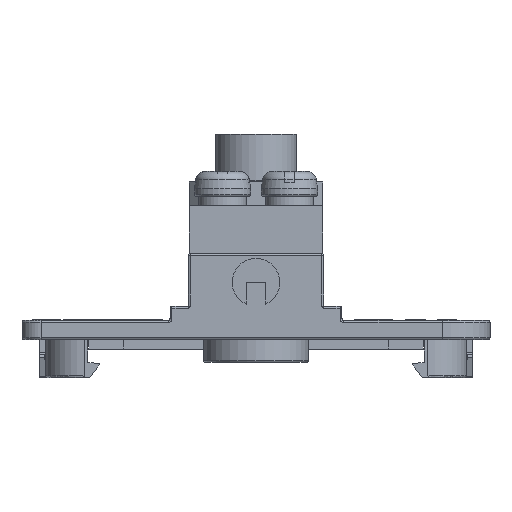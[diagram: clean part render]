
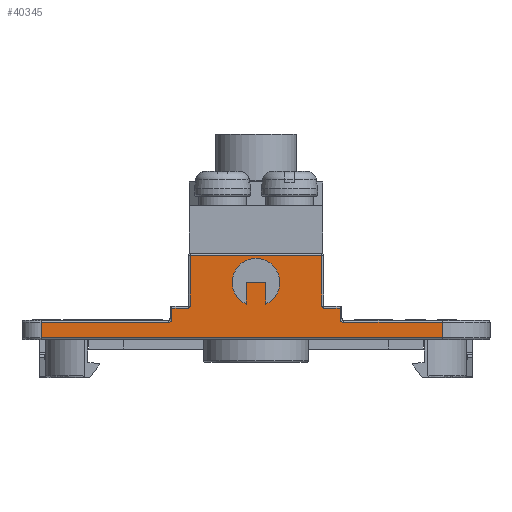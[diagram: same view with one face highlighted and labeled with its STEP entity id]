
A CAD part, left-side view. The second image highlights one B-rep face of the part: STEP entity #40345.
In plain terms, the highlighted planar face has unit normal (-1, 0, 0).
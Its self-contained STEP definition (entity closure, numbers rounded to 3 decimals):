
#1775=LINE('',#55544,#4717);
#1777=LINE('',#55548,#4719);
#1779=LINE('',#55552,#4721);
#1998=LINE('',#56090,#4940);
#2097=LINE('',#56355,#5039);
#2098=LINE('',#56360,#5040);
#2099=LINE('',#56362,#5041);
#2100=LINE('',#56364,#5042);
#2101=LINE('',#56365,#5043);
#2102=LINE('',#56369,#5044);
#2103=LINE('',#56371,#5045);
#2104=LINE('',#56375,#5046);
#2105=LINE('',#56377,#5047);
#2106=LINE('',#56379,#5048);
#2107=LINE('',#56383,#5049);
#4717=VECTOR('',#45290,1000.);
#4719=VECTOR('',#45294,1000.);
#4721=VECTOR('',#45298,1000.);
#4940=VECTOR('',#45709,1000.);
#5039=VECTOR('',#45970,1000.);
#5040=VECTOR('',#45973,1000.);
#5041=VECTOR('',#45974,1000.);
#5042=VECTOR('',#45975,1000.);
#5043=VECTOR('',#45976,1000.);
#5044=VECTOR('',#45979,1000.);
#5045=VECTOR('',#45980,1000.);
#5046=VECTOR('',#45983,1000.);
#5047=VECTOR('',#45984,1000.);
#5048=VECTOR('',#45985,1000.);
#5049=VECTOR('',#45988,1000.);
#8514=ORIENTED_EDGE('',*,*,#16613,.T.);
#8515=ORIENTED_EDGE('',*,*,#16614,.T.);
#8516=ORIENTED_EDGE('',*,*,#16615,.T.);
#8517=ORIENTED_EDGE('',*,*,#16616,.T.);
#8518=ORIENTED_EDGE('',*,*,#16617,.T.);
#8519=ORIENTED_EDGE('',*,*,#16475,.T.);
#8520=ORIENTED_EDGE('',*,*,#16618,.T.);
#8521=ORIENTED_EDGE('',*,*,#16619,.T.);
#8522=ORIENTED_EDGE('',*,*,#16620,.T.);
#8523=ORIENTED_EDGE('',*,*,#16621,.T.);
#8524=ORIENTED_EDGE('',*,*,#16622,.F.);
#8525=ORIENTED_EDGE('',*,*,#16623,.T.);
#8526=ORIENTED_EDGE('',*,*,#16624,.T.);
#8527=ORIENTED_EDGE('',*,*,#16625,.T.);
#8528=ORIENTED_EDGE('',*,*,#16626,.F.);
#8529=ORIENTED_EDGE('',*,*,#16627,.T.);
#8530=ORIENTED_EDGE('',*,*,#16222,.T.);
#8531=ORIENTED_EDGE('',*,*,#16220,.F.);
#8532=ORIENTED_EDGE('',*,*,#16218,.T.);
#8533=ORIENTED_EDGE('',*,*,#16215,.T.);
#16215=EDGE_CURVE('',#20340,#20341,#22370,.T.);
#16218=EDGE_CURVE('',#20342,#20340,#1775,.T.);
#16220=EDGE_CURVE('',#20342,#20343,#1777,.T.);
#16222=EDGE_CURVE('',#20341,#20343,#1779,.T.);
#16475=EDGE_CURVE('',#20567,#20568,#1998,.F.);
#16613=EDGE_CURVE('',#20652,#20653,#2097,.F.);
#16614=EDGE_CURVE('',#20653,#20654,#22444,.F.);
#16615=EDGE_CURVE('',#20654,#20655,#2098,.F.);
#16616=EDGE_CURVE('',#20655,#20656,#2099,.T.);
#16617=EDGE_CURVE('',#20656,#20567,#2100,.F.);
#16618=EDGE_CURVE('',#20568,#20657,#2101,.F.);
#16619=EDGE_CURVE('',#20657,#20658,#22445,.F.);
#16620=EDGE_CURVE('',#20658,#20659,#2102,.F.);
#16621=EDGE_CURVE('',#20659,#20660,#2103,.F.);
#16622=EDGE_CURVE('',#20661,#20660,#22446,.T.);
#16623=EDGE_CURVE('',#20661,#20662,#2104,.F.);
#16624=EDGE_CURVE('',#20662,#20663,#2105,.F.);
#16625=EDGE_CURVE('',#20663,#20664,#2106,.F.);
#16626=EDGE_CURVE('',#20665,#20664,#22447,.T.);
#16627=EDGE_CURVE('',#20665,#20652,#2107,.F.);
#20340=VERTEX_POINT('',#55539);
#20341=VERTEX_POINT('',#55540);
#20342=VERTEX_POINT('',#55545);
#20343=VERTEX_POINT('',#55549);
#20567=VERTEX_POINT('',#56091);
#20568=VERTEX_POINT('',#56092);
#20652=VERTEX_POINT('',#56356);
#20653=VERTEX_POINT('',#56357);
#20654=VERTEX_POINT('',#56359);
#20655=VERTEX_POINT('',#56361);
#20656=VERTEX_POINT('',#56363);
#20657=VERTEX_POINT('',#56366);
#20658=VERTEX_POINT('',#56368);
#20659=VERTEX_POINT('',#56370);
#20660=VERTEX_POINT('',#56372);
#20661=VERTEX_POINT('',#56374);
#20662=VERTEX_POINT('',#56376);
#20663=VERTEX_POINT('',#56378);
#20664=VERTEX_POINT('',#56380);
#20665=VERTEX_POINT('',#56382);
#22370=CIRCLE('',#42081,2.5);
#22444=CIRCLE('',#42262,0.4);
#22445=CIRCLE('',#42263,0.4);
#22446=CIRCLE('',#42264,0.2);
#22447=CIRCLE('',#42265,0.2);
#23289=EDGE_LOOP('',(#8514,#8515,#8516,#8517,#8518,#8519,#8520,#8521,#8522,
#8523,#8524,#8525,#8526,#8527,#8528,#8529));
#23290=EDGE_LOOP('',(#8530,#8531,#8532,#8533));
#25351=FACE_BOUND('',#23289,.T.);
#25352=FACE_BOUND('',#23290,.T.);
#27270=PLANE('',#42261);
#40345=ADVANCED_FACE('',(#25351,#25352),#27270,.T.);
#42081=AXIS2_PLACEMENT_3D('',#55538,#45284,#45285);
#42261=AXIS2_PLACEMENT_3D('',#56354,#45968,#45969);
#42262=AXIS2_PLACEMENT_3D('',#56358,#45971,#45972);
#42263=AXIS2_PLACEMENT_3D('',#56367,#45977,#45978);
#42264=AXIS2_PLACEMENT_3D('',#56373,#45981,#45982);
#42265=AXIS2_PLACEMENT_3D('',#56381,#45986,#45987);
#45284=DIRECTION('',(1.,0.,0.));
#45285=DIRECTION('',(0.,0.,-1.));
#45290=DIRECTION('',(0.,0.,-1.));
#45294=DIRECTION('',(0.,-1.,0.));
#45298=DIRECTION('',(0.,0.,1.));
#45709=DIRECTION('',(0.,0.,-1.));
#45968=DIRECTION('',(-1.,0.,0.));
#45969=DIRECTION('',(0.,-1.,0.));
#45970=DIRECTION('',(0.,0.,1.));
#45971=DIRECTION('',(-1.,0.,0.));
#45972=DIRECTION('',(0.,-1.,0.));
#45973=DIRECTION('',(0.,-1.,0.));
#45974=DIRECTION('',(0.,0.,-1.));
#45975=DIRECTION('',(0.,1.,0.));
#45976=DIRECTION('',(0.,-1.,0.));
#45977=DIRECTION('',(-1.,0.,0.));
#45978=DIRECTION('',(0.,-1.,0.));
#45979=DIRECTION('',(0.,0.,-1.));
#45980=DIRECTION('',(0.,-1.,0.));
#45981=DIRECTION('',(-1.,0.,0.));
#45982=DIRECTION('',(0.,-1.,0.));
#45983=DIRECTION('',(0.,0.,-1.));
#45984=DIRECTION('',(0.,-1.,0.));
#45985=DIRECTION('',(0.,0.,1.));
#45986=DIRECTION('',(-1.,0.,0.));
#45987=DIRECTION('',(0.,-1.,0.));
#45988=DIRECTION('',(0.,-1.,0.));
#55538=CARTESIAN_POINT('',(-57.,0.,6.));
#55539=CARTESIAN_POINT('',(-57.,1.,3.709));
#55540=CARTESIAN_POINT('',(-57.,-1.,3.709));
#55544=CARTESIAN_POINT('',(-57.,1.,4.));
#55545=CARTESIAN_POINT('',(-57.,1.,6.));
#55548=CARTESIAN_POINT('',(-57.,1.,6.));
#55549=CARTESIAN_POINT('',(-57.,-1.,6.));
#55552=CARTESIAN_POINT('',(-57.,-1.,4.));
#56090=CARTESIAN_POINT('',(-57.,-19.5,0.));
#56091=CARTESIAN_POINT('',(-57.,-19.5,0.2));
#56092=CARTESIAN_POINT('',(-57.,-19.5,1.8));
#56354=CARTESIAN_POINT('',(-57.,0.,0.));
#56355=CARTESIAN_POINT('',(-57.,8.8,0.));
#56356=CARTESIAN_POINT('',(-57.,8.8,3.3));
#56357=CARTESIAN_POINT('',(-57.,8.8,2.2));
#56358=CARTESIAN_POINT('',(-57.,9.2,2.2));
#56359=CARTESIAN_POINT('',(-57.,9.2,1.8));
#56360=CARTESIAN_POINT('',(-57.,22.5,1.8));
#56361=CARTESIAN_POINT('',(-57.,22.5,1.8));
#56362=CARTESIAN_POINT('',(-57.,22.5,0.));
#56363=CARTESIAN_POINT('',(-57.,22.5,0.2));
#56364=CARTESIAN_POINT('',(-57.,0.,0.2));
#56365=CARTESIAN_POINT('',(-57.,-9.,1.8));
#56366=CARTESIAN_POINT('',(-57.,-9.2,1.8));
#56367=CARTESIAN_POINT('',(-57.,-9.2,2.2));
#56368=CARTESIAN_POINT('',(-57.,-8.8,2.2));
#56369=CARTESIAN_POINT('',(-57.,-8.8,3.5));
#56370=CARTESIAN_POINT('',(-57.,-8.8,3.3));
#56371=CARTESIAN_POINT('',(-57.,0.,3.3));
#56372=CARTESIAN_POINT('',(-57.,-7.1,3.3));
#56373=CARTESIAN_POINT('',(-57.,-7.1,3.5));
#56374=CARTESIAN_POINT('',(-57.,-6.9,3.5));
#56375=CARTESIAN_POINT('',(-57.,-6.9,0.));
#56376=CARTESIAN_POINT('',(-57.,-6.9,8.8));
#56377=CARTESIAN_POINT('',(-57.,7.1,8.8));
#56378=CARTESIAN_POINT('',(-57.,6.9,8.8));
#56379=CARTESIAN_POINT('',(-57.,6.9,0.));
#56380=CARTESIAN_POINT('',(-57.,6.9,3.5));
#56381=CARTESIAN_POINT('',(-57.,7.1,3.5));
#56382=CARTESIAN_POINT('',(-57.,7.1,3.3));
#56383=CARTESIAN_POINT('',(-57.,9.,3.3));
